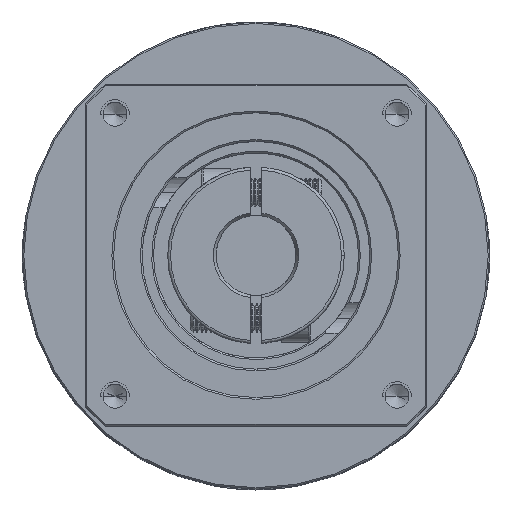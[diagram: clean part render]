
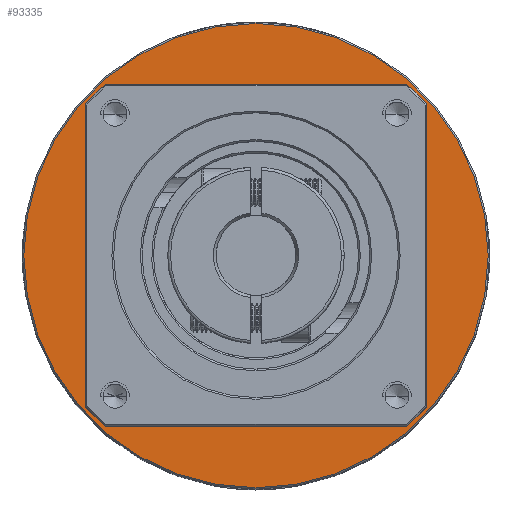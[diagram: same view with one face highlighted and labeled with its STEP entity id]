
A CAD part, top view. The second image highlights one B-rep face of the part: STEP entity #93335.
In plain terms, the highlighted planar face has unit normal (0, 0, 1).
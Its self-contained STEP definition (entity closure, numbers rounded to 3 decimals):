
#151 = CARTESIAN_POINT ( 'NONE',  ( 14.548, 2.245, 34. ) ) ;
#2355 = CARTESIAN_POINT ( 'NONE',  ( 14.548, 2.245, 34. ) ) ;
#7717 = DIRECTION ( 'NONE',  ( 0., 0., -1. ) ) ;
#7811 = VERTEX_POINT ( 'NONE', #31108 ) ;
#8989 = ORIENTED_EDGE ( 'NONE', *, *, #35865, .T. ) ;
#10231 = EDGE_CURVE ( 'NONE', #69078, #26596, #85332, .T. ) ;
#10325 = DIRECTION ( 'NONE',  ( -1., 0., 0. ) ) ;
#12525 = DIRECTION ( 'NONE',  ( -1., 0., 0. ) ) ;
#21943 = DIRECTION ( 'NONE',  ( 0., 0., 1. ) ) ;
#26596 = VERTEX_POINT ( 'NONE', #130838 ) ;
#31108 = CARTESIAN_POINT ( 'NONE',  ( 44.548, 2.245, 34. ) ) ;
#34809 = ORIENTED_EDGE ( 'NONE', *, *, #57431, .F. ) ;
#35865 = EDGE_CURVE ( 'NONE', #93598, #7811, #129066, .T. ) ;
#38350 = FACE_BOUND ( 'NONE', #39043, .T. ) ;
#39043 = EDGE_LOOP ( 'NONE', ( #8989, #110460 ) ) ;
#41218 = CIRCLE ( 'NONE', #112391, 40.75 ) ;
#47058 = AXIS2_PLACEMENT_3D ( 'NONE', #151, #71017, #10325 ) ;
#49187 = EDGE_LOOP ( 'NONE', ( #34809, #120333 ) ) ;
#55948 = CARTESIAN_POINT ( 'NONE',  ( 14.548, 2.245, 34. ) ) ;
#56469 = CARTESIAN_POINT ( 'NONE',  ( -15.452, 2.245, 34. ) ) ;
#57431 = EDGE_CURVE ( 'NONE', #26596, #69078, #41218, .T. ) ;
#59490 = AXIS2_PLACEMENT_3D ( 'NONE', #82565, #21943, #92623 ) ;
#66134 = DIRECTION ( 'NONE',  ( -1., 0., 0. ) ) ;
#68400 = CARTESIAN_POINT ( 'NONE',  ( 14.548, 2.245, 34. ) ) ;
#69078 = VERTEX_POINT ( 'NONE', #101160 ) ;
#71017 = DIRECTION ( 'NONE',  ( 0., 0., -1. ) ) ;
#73216 = DIRECTION ( 'NONE',  ( 0., 0., -1. ) ) ;
#74855 = CIRCLE ( 'NONE', #130211, 30. ) ;
#78539 = DIRECTION ( 'NONE',  ( -1., 0., 0. ) ) ;
#82565 = CARTESIAN_POINT ( 'NONE',  ( 14.548, 2.245, 34. ) ) ;
#85332 = CIRCLE ( 'NONE', #116329, 40.75 ) ;
#92623 = DIRECTION ( 'NONE',  ( 1., 0., 0. ) ) ;
#93335 = ADVANCED_FACE ( 'NONE', ( #118852, #38350 ), #102311, .T. ) ;
#93598 = VERTEX_POINT ( 'NONE', #56469 ) ;
#101160 = CARTESIAN_POINT ( 'NONE',  ( 55.298, 2.245, 34. ) ) ;
#101415 = EDGE_CURVE ( 'NONE', #7811, #93598, #74855, .T. ) ;
#102311 = PLANE ( 'NONE',  #59490 ) ;
#110460 = ORIENTED_EDGE ( 'NONE', *, *, #101415, .T. ) ;
#112391 = AXIS2_PLACEMENT_3D ( 'NONE', #55948, #126418, #66134 ) ;
#116329 = AXIS2_PLACEMENT_3D ( 'NONE', #2355, #73216, #12525 ) ;
#118852 = FACE_OUTER_BOUND ( 'NONE', #49187, .T. ) ;
#120333 = ORIENTED_EDGE ( 'NONE', *, *, #10231, .F. ) ;
#126418 = DIRECTION ( 'NONE',  ( 0., 0., -1. ) ) ;
#129066 = CIRCLE ( 'NONE', #47058, 30. ) ;
#130211 = AXIS2_PLACEMENT_3D ( 'NONE', #68400, #7717, #78539 ) ;
#130838 = CARTESIAN_POINT ( 'NONE',  ( -26.202, 2.245, 34. ) ) ;
